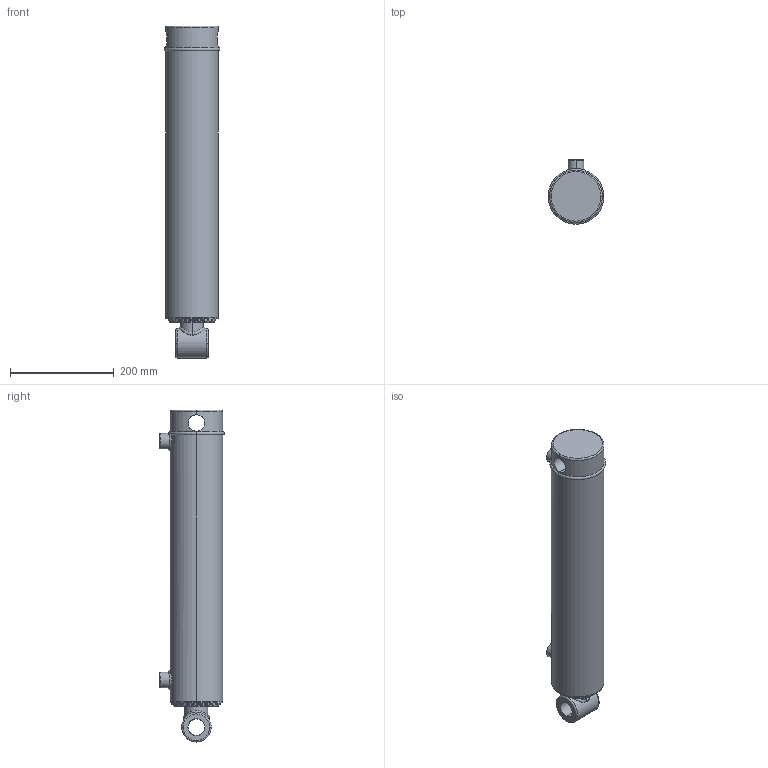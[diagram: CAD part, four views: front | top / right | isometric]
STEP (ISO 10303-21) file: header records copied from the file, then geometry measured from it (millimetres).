
FILE_DESCRIPTION (( 'STEP AP203' ), '1' );
FILE_NAME ('SB-C350175x406 (16).STEP', '2015-04-01T02:48:27', ( '' ), ( '' ), 'SwSTEP 2.0', 'SolidWorks 2015', '' );
FILE_SCHEMA (( 'CONFIG_CONTROL_DESIGN' ));
Length unit declared in the file: millimetre
Products named in the file (6): SB-C350175x406 (16); SB-C350175x457 (18) BODY_16; 3.5 INCH CIRCLIP; SB-C350175x457 (18) BODY; 18 spare_16; spare 18
Assembly tree (5 placements, depth 3):
  SB-C350175x406 (16)
    SB-C350175x457 (18) BODY
      SB-C350175x457 (18) BODY_16
      3.5 INCH CIRCLIP
    spare 18
      18 spare_16
Bounding box: 107.6 x 124.6 x 640.58 mm (x, y, z)
Volume: 4903332.9 mm3; surface area: 360147.8 mm2
Topology: 3 solids, 3 shells, 114 faces, 269 edges, 167 vertices
Faces by surface type: cylinder 49, plane 23, bspline 22, cone 12, torus 8
Entity records: 13049 total; most frequent: CARTESIAN_POINT 9929, ORIENTED_EDGE 530, DIRECTION 518, EDGE_CURVE 265, AXIS2_PLACEMENT_3D 220, VERTEX_POINT 167, EDGE_LOOP 134, CIRCLE 118
